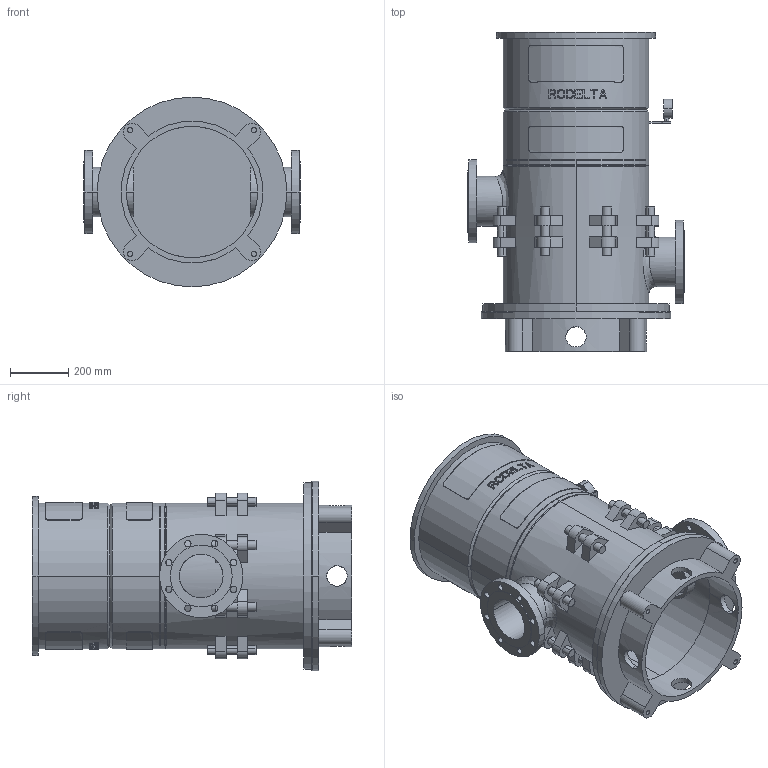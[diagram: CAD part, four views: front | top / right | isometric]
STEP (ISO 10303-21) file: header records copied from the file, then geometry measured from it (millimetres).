
FILE_DESCRIPTION((''),'2;1');
FILE_NAME('LS6_1TR_0GR_ABOVE_30KW','2023-08-11T',('Lyritlocal'),(''),'PRO/ENGINEER BY PARAMETRIC TECHNOLOGY CORPORATION, 2016360','PRO/ENGINEER BY PARAMETRIC TECHNOLOGY CORPORATION, 2016360','');
FILE_SCHEMA(('CONFIG_CONTROL_DESIGN'));
Length unit declared in the file: millimetre
Products named in the file (1): LS6_1TR_0GR_ABOVE_30KW
Bounding box: 740 x 1093 x 650 mm (x, y, z)
Volume: 40978973.5 mm3; surface area: 5286698 mm2
Topology: 3 solids, 7 shells, 684 faces, 1767 edges, 1174 vertices
Faces by surface type: plane 422, cylinder 242, cone 12, bspline 8
Entity records: 22607 total; most frequent: CARTESIAN_POINT 5995, ORIENTED_EDGE 3518, DIRECTION 3273, EDGE_CURVE 1767, AXIS2_PLACEMENT_3D 1237, VERTEX_POINT 1174, EDGE_LOOP 829, VECTOR 799
